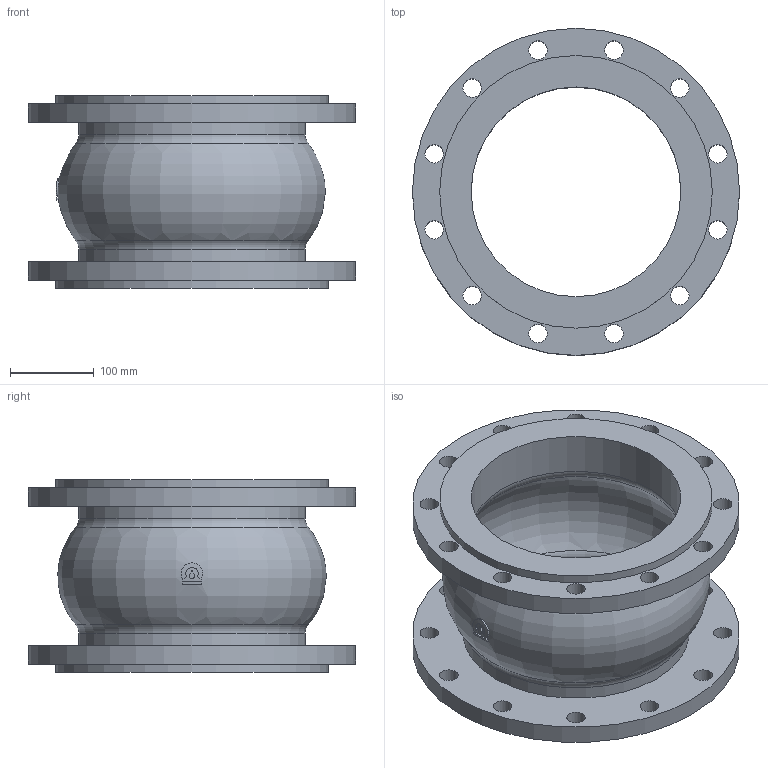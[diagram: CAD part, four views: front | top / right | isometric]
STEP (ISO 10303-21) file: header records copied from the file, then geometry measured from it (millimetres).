
FILE_DESCRIPTION(('STEP AP203'), '1');
FILE_NAME('Êîìïåíñàòîð KMS DN250 PN10_L230', '', ('UNSPECIFIED'), ('UNSPECIFIED'), 'ASCON STEP Converter 1.6', 'ASCON Math Kernel', '');
FILE_SCHEMA(('CONFIG_CONTROL_DESIGN'));
Length unit declared in the file: millimetre
Bounding box: 390 x 390 x 230 mm (x, y, z)
Volume: 5177053.7 mm3; surface area: 727357.1 mm2
Topology: 1 solids, 1 shells, 61 faces, 148 edges, 96 vertices
Faces by surface type: cylinder 39, plane 13, torus 9
Full cylindrical faces by diameter (mm): 22 x24, 250 x2, 270 x2, 325 x2, 390 x2
Entity records: 2973 total; most frequent: CARTESIAN_POINT 1040, DIRECTION 286, ORIENTED_EDGE 220, EDGE_LOOP 156, AXIS2_PLACEMENT_3D 136, EDGE_CURVE 110, VERTEX_POINT 96, FACE_BOUND 80
